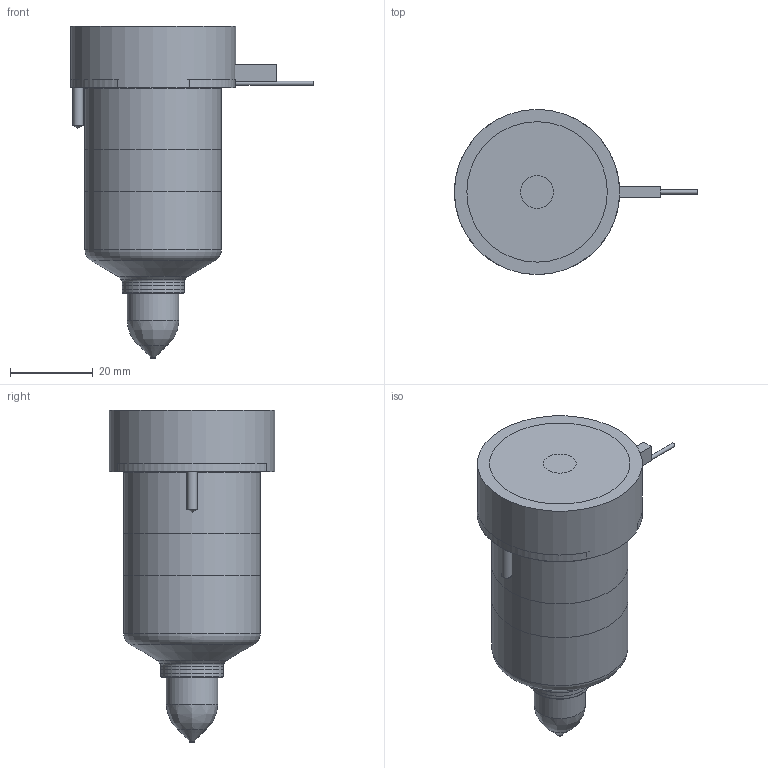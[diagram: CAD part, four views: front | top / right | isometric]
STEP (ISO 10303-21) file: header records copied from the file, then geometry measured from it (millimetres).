
FILE_DESCRIPTION(/* description */ (''),/* implementation_level */ '2;1');
FILE_NAME(/* name */ 'BXTT-BXIT19055-10_200C_b',/* time_stamp */ '2007-01-18T10:00:08+13:00',/* author */ (''),/* organization */ (''),/* preprocessor_version */ 'ST-DEVELOPER v9',/* originating_system */ 'UGS - NX 4.0',/* authorisation */ '');
FILE_SCHEMA (('CONFIG_CONTROL_DESIGN'));
Length unit declared in the file: millimetre
Products named in the file (1): BXTT-BXIT19055-10_200C_b
Bounding box: 58.85 x 40 x 80.37 mm (x, y, z)
Volume: 112478.1 mm3; surface area: 22064.6 mm2
Topology: 6 solids, 6 shells, 82 faces, 162 edges, 102 vertices
Faces by surface type: plane 35, cylinder 25, cone 12, torus 8, bspline 2
Full cylindrical faces by diameter (mm): 1 x3, 1.2 x1, 2.5 x2, 8 x1, 9 x1, 12.5 x1, 14.61 x1, 15.01 x2, 18.3 x1, 28.6 x1, 33 x2, 40 x1
Entity records: 2043 total; most frequent: CARTESIAN_POINT 427, DIRECTION 340, ORIENTED_EDGE 236, AXIS2_PLACEMENT_3D 151, EDGE_LOOP 128, EDGE_CURVE 118, VERTEX_POINT 95, ADVANCED_FACE 82
